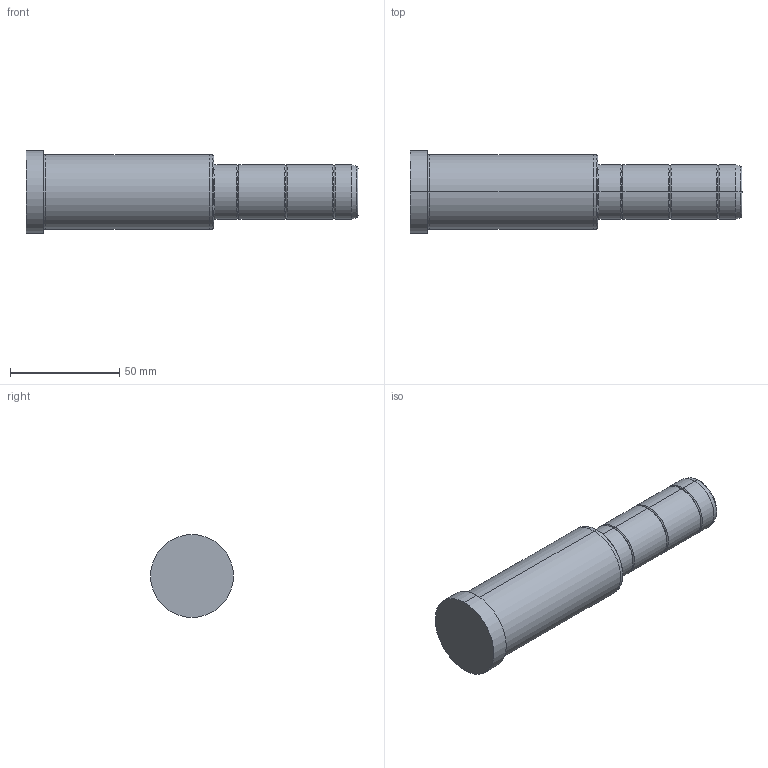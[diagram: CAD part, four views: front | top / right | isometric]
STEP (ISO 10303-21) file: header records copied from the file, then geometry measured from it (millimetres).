
FILE_DESCRIPTION( ( 'STEP AP203' ), '1' );
FILE_NAME( 'C:/Projects/D02 - 25x86x66.step', '2002-12-31T22:19:40', ( ' ' ), ( ' ' ), 'XStep 1.0', ' ', ' ' );
FILE_SCHEMA( ( 'CONFIG_CONTROL_DESIGN' ) );
Length unit declared in the file: metre
Products named in the file (1): 1
Bounding box: 152 x 38 x 38 mm (x, y, z)
Volume: 112167.7 mm3; surface area: 16744.5 mm2
Topology: 1 solids, 1 shells, 42 faces, 82 edges, 46 vertices
Faces by surface type: bspline 22, revolution 20
Entity records: 1325 total; most frequent: CARTESIAN_POINT 517, ORIENTED_EDGE 164, DIRECTION 134, EDGE_CURVE 82, AXIS2_PLACEMENT_3D 47, EDGE_LOOP 46, VERTEX_POINT 46, CIRCLE 46
